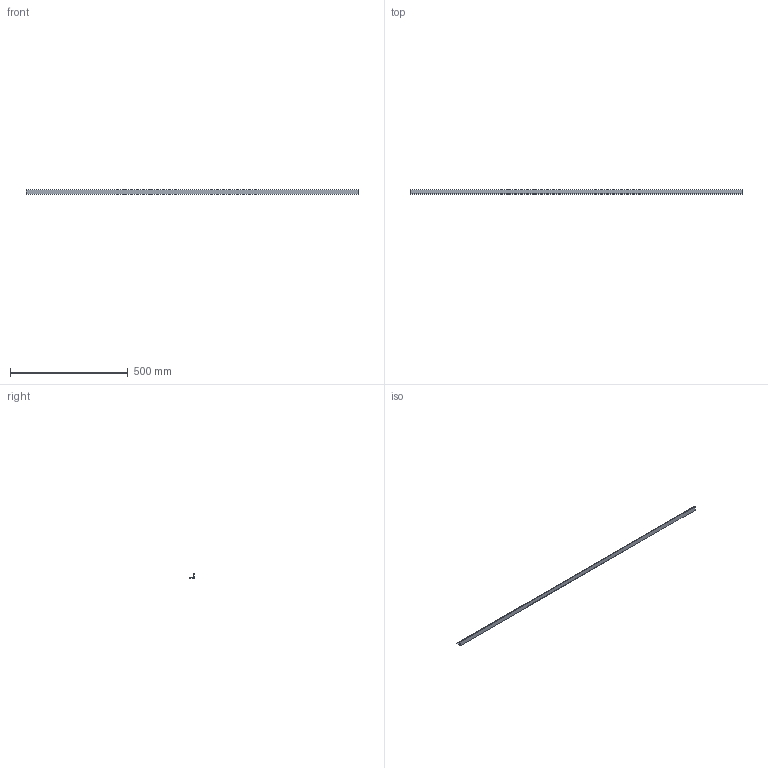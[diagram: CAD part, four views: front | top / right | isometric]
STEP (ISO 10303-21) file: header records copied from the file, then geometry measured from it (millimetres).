
FILE_DESCRIPTION(/* description */ (''),/* implementation_level */ '2;1');
FILE_NAME(/* name */ 'X-0AB9~1',/* time_stamp */ '2014-02-14T19:46:06+01:00',/* author */ (''),/* organization */ (''),/* preprocessor_version */ 'ST-DEVELOPER v14',/* originating_system */ '',/* authorisation */ '');
FILE_SCHEMA (('AUTOMOTIVE_DESIGN'));
Length unit declared in the file: millimetre
Products named in the file (1): Document
Bounding box: 1410 x 20 x 20 mm (x, y, z)
Volume: 156510 mm3; surface area: 113022 mm2
Topology: 1 solids, 1 shells, 8 faces, 18 edges, 12 vertices
Faces by surface type: plane 8
Entity records: 422 total; most frequent: CARTESIAN_POINT 130, B_SPLINE_CURVE_WITH_KNOTS 54, ORIENTED_EDGE 36, PCURVE 36, DEFINITIONAL_REPRESENTATION 36, SURFACE_CURVE 18, EDGE_CURVE 18, VERTEX_POINT 12
